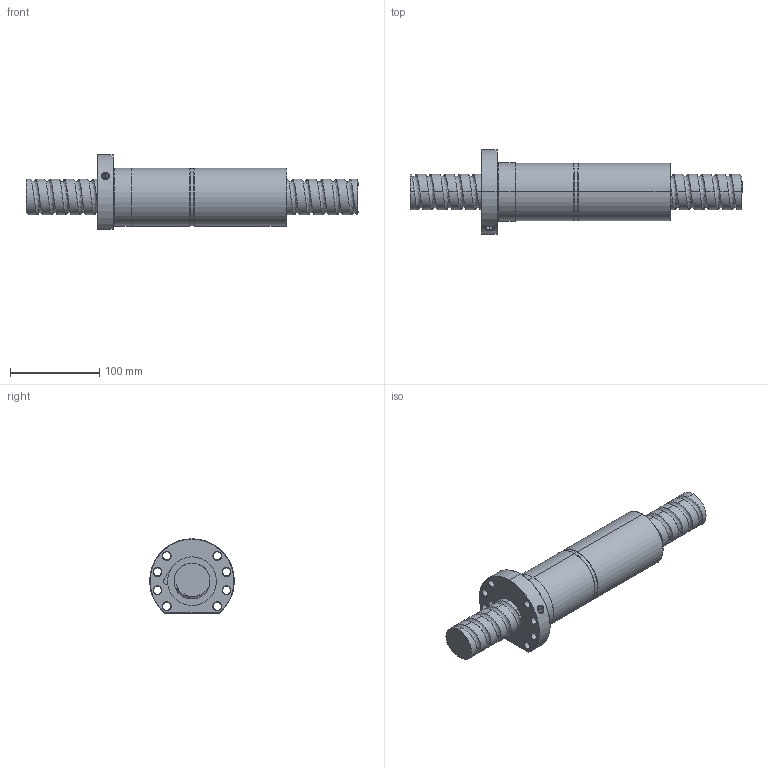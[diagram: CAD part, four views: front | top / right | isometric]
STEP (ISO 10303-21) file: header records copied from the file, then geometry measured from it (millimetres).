
FILE_DESCRIPTION (( 'STEP AP214' ), '1' );
FILE_NAME ('FDDC04016T5-F-B.STEP', '2010-07-07T02:14:22', ( 'XPAUTO' ), ( 'XPAUTO' ), 'SwSTEP 2.0', 'SolidWorks 2007', '' );
FILE_SCHEMA (( 'AUTOMOTIVE_DESIGN' ));
Length unit declared in the file: millimetre
Products named in the file (3): FDDC04016T5-F-B.sldasm-Part-2_預設; FDDC04016T5-F-B.sldasm-Part-1_預設; FDDC04016T5-F-B
Assembly tree (2 placements, depth 2):
  FDDC04016T5-F-B
    FDDC04016T5-F-B.sldasm-Part-1_預設
    FDDC04016T5-F-B.sldasm-Part-2_預設
Bounding box: 372 x 95 x 83.5 mm (x, y, z)
Volume: 914763.7 mm3; surface area: 140487.2 mm2
Topology: 2 solids, 2 shells, 159 faces, 398 edges, 248 vertices
Faces by surface type: cylinder 94, cone 32, plane 19, torus 9, bspline 5
Entity records: 31863 total; most frequent: CARTESIAN_POINT 28090, ORIENTED_EDGE 796, DIRECTION 734, EDGE_CURVE 398, AXIS2_PLACEMENT_3D 298, VERTEX_POINT 248, EDGE_LOOP 184, FACE_OUTER_BOUND 159
